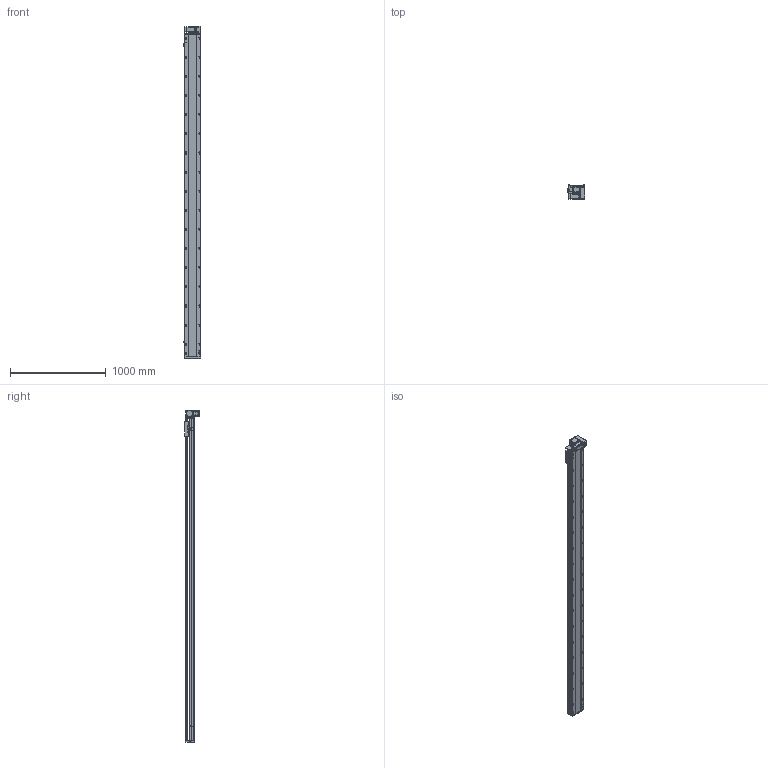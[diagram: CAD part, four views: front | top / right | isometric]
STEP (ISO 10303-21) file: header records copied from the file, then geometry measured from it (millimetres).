
FILE_DESCRIPTION (( 'STEP AP214' ), '1' );
FILE_NAME ('RTB17S-XX-3100-RM-M40-C4.STEP', '2025-12-11T08:36:05', ( '' ), ( '' ), 'SwSTEP 2.0', 'SolidWorks 2018', '' );
FILE_SCHEMA (( 'AUTOMOTIVE_DESIGN' ));
Length unit declared in the file: millimetre
Products named in the file (14): OMRON EE-SX672 传感器^RTB17S-XX-XX-RM-M40-C4; RTB14-L-008-M20--萇儂啣^RTB17S-RM-々湍釱蚾饜-400W_RTB17S-XX-XX-RM-M40-C4; RTB17S-L-007奻裔^RTB17S-XX-XX-RM-M40-C4; 400W侜督萇儂^RTB17S-XX-XX-RM-M40-C4; RTB17S-L-014-T20--々湍釱^RTB17S-RM-々湍釱蚾饜-400W_RTB17S-XX-XX-RM-M40-C4; RTB17S-RM-々湍釱蚾饜-400W^RTB17S-XX-XX-RM-M40-C4; RTB14-L-005P--轴承塑胶压盖^RTB17S-RM-皮带座装配-400W_RTB17S-XX-XX-RM-M40-C4; RTB17S-L-004佪裝蹟譫蟀諉釱^RTB17S-XX-XX-RM-M40-C4; RTB14-L-017P^RTB17S-RM-々湍釱蚾饜-400W_RTB17S-XX-XX-RM-M40-C4; RTB14-L-018P^RTB17S-RM-々湍釱蚾饜-400W_RTB17S-XX-XX-RM-M40-C4; RTB17S-L-001耜醱啣^RTB17S-XX-XX-RM-M40-C4; RTH13-BL-012覜茼え俋离^RTB17S-XX-XX-RM-M40-C4; RTB17-R-011菁釱^RTB17S-XX-XX-RM-M40-C4; RTB17S-XX-3100-RM-M40-C4
Assembly tree (16 placements, depth 3):
  RTB17S-XX-3100-RM-M40-C4
    RTB17-R-011菁釱^RTB17S-XX-XX-RM-M40-C4
    RTB17S-L-007奻裔^RTB17S-XX-XX-RM-M40-C4
    OMRON EE-SX672 传感器^RTB17S-XX-XX-RM-M40-C4  x3
    RTB17S-L-001耜醱啣^RTB17S-XX-XX-RM-M40-C4
    400W侜督萇儂^RTB17S-XX-XX-RM-M40-C4
    RTB17S-L-004佪裝蹟譫蟀諉釱^RTB17S-XX-XX-RM-M40-C4
    RTH13-BL-012覜茼え俋离^RTB17S-XX-XX-RM-M40-C4
    RTB17S-RM-々湍釱蚾饜-400W^RTB17S-XX-XX-RM-M40-C4
      RTB17S-L-014-T20--々湍釱^RTB17S-RM-々湍釱蚾饜-400W_RTB17S-XX-XX-RM-M40-C4
      RTB14-L-005P--轴承塑胶压盖^RTB17S-RM-皮带座装配-400W_RTB17S-XX-XX-RM-M40-C4
      RTB14-L-008-M20--萇儂啣^RTB17S-RM-々湍釱蚾饜-400W_RTB17S-XX-XX-RM-M40-C4
      RTB14-L-017P^RTB17S-RM-々湍釱蚾饜-400W_RTB17S-XX-XX-RM-M40-C4  x2
      RTB14-L-018P^RTB17S-RM-々湍釱蚾饜-400W_RTB17S-XX-XX-RM-M40-C4
Bounding box: 183.5 x 156.5 x 3472.5 mm (x, y, z)
Volume: 29497044.2 mm3; surface area: 3366476.1 mm2
Topology: 15 solids, 15 shells, 2381 faces, 6681 edges, 4365 vertices
Faces by surface type: plane 1090, cylinder 843, bspline 301, cone 139, torus 8
Entity records: 71081 total; most frequent: CARTESIAN_POINT 20286, ORIENTED_EDGE 10206, DIRECTION 9386, EDGE_CURVE 5103, VERTEX_POINT 3353, AXIS2_PLACEMENT_3D 3283, LINE 2820, VECTOR 2820
